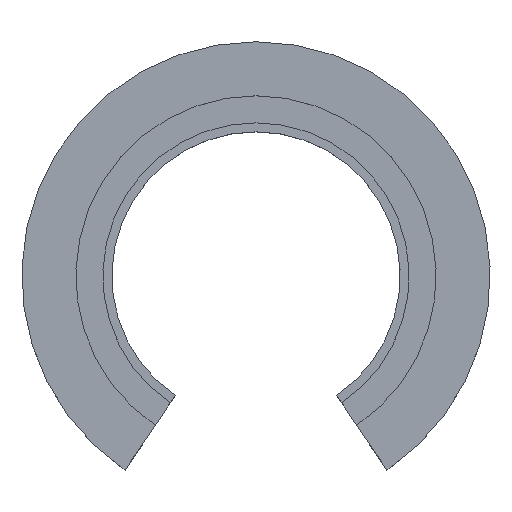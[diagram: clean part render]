
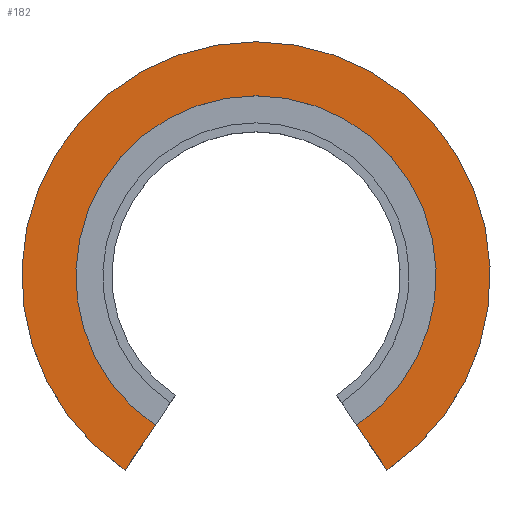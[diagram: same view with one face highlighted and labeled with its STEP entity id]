
A CAD part, top view. The second image highlights one B-rep face of the part: STEP entity #182.
In plain terms, the highlighted planar face has unit normal (0, 0, 1).
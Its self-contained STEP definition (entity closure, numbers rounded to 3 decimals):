
#22=CIRCLE('',#231,10.);
#23=CIRCLE('',#233,13.);
#36=FACE_OUTER_BOUND('',#46,.T.);
#46=EDGE_LOOP('',(#151,#152,#153,#154));
#52=LINE('',#307,#68);
#66=LINE('',#335,#82);
#68=VECTOR('',#249,10.);
#82=VECTOR('',#265,10.);
#83=VERTEX_POINT('',#303);
#85=VERTEX_POINT('',#306);
#92=VERTEX_POINT('',#321);
#98=VERTEX_POINT('',#333);
#100=EDGE_CURVE('',#85,#83,#52,.T.);
#114=EDGE_CURVE('',#92,#98,#66,.T.);
#118=EDGE_CURVE('',#98,#85,#22,.T.);
#119=EDGE_CURVE('',#83,#92,#23,.T.);
#151=ORIENTED_EDGE('',*,*,#100,.T.);
#152=ORIENTED_EDGE('',*,*,#119,.T.);
#153=ORIENTED_EDGE('',*,*,#114,.T.);
#154=ORIENTED_EDGE('',*,*,#118,.T.);
#174=PLANE('',#232);
#182=ADVANCED_FACE('',(#36),#174,.T.);
#231=AXIS2_PLACEMENT_3D('',#342,#278,#279);
#232=AXIS2_PLACEMENT_3D('',#343,#280,#281);
#233=AXIS2_PLACEMENT_3D('',#344,#282,#283);
#249=DIRECTION('',(0.559,-0.829,0.));
#265=DIRECTION('',(0.559,0.829,0.));
#278=DIRECTION('center_axis',(0.,0.,-1.));
#279=DIRECTION('ref_axis',(-1.,0.,0.));
#280=DIRECTION('center_axis',(0.,0.,1.));
#281=DIRECTION('ref_axis',(1.,0.,0.));
#282=DIRECTION('center_axis',(0.,0.,1.));
#283=DIRECTION('ref_axis',(1.,0.,0.));
#303=CARTESIAN_POINT('',(7.27,-10.777,1.5));
#306=CARTESIAN_POINT('',(5.592,-8.29,1.5));
#307=CARTESIAN_POINT('',(0.,0.,1.5));
#321=CARTESIAN_POINT('',(-7.27,-10.777,1.5));
#333=CARTESIAN_POINT('',(-5.592,-8.29,1.5));
#335=CARTESIAN_POINT('',(-4.411,-6.539,1.5));
#342=CARTESIAN_POINT('Origin',(0.,0.,1.5));
#343=CARTESIAN_POINT('Origin',(0.,0.,1.5));
#344=CARTESIAN_POINT('Origin',(0.,0.,1.5));
